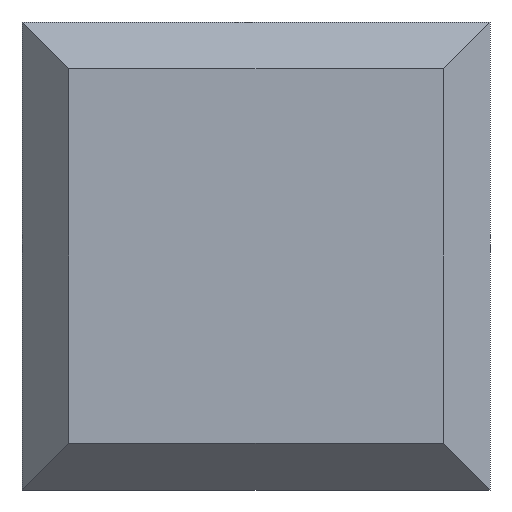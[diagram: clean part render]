
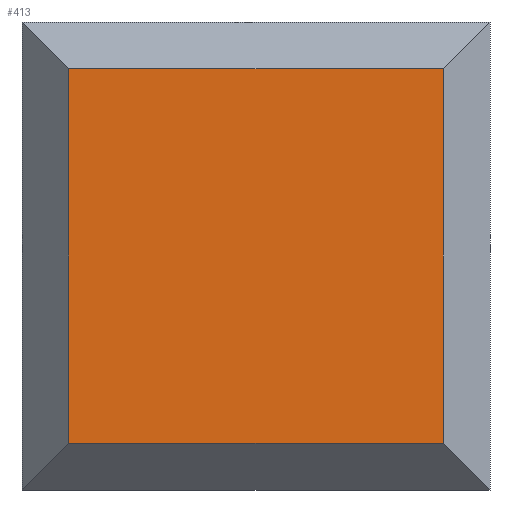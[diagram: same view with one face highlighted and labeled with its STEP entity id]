
A CAD part, front view. The second image highlights one B-rep face of the part: STEP entity #413.
In plain terms, the highlighted planar face has unit normal (0, -1, 0).
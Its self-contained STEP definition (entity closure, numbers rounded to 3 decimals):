
#7 = ORIENTED_EDGE ( 'NONE', *, *, #665, .F. ) ;
#75 = DIRECTION ( 'NONE',  ( 0., 0., 1. ) ) ;
#84 = CARTESIAN_POINT ( 'NONE',  ( 4., -4., 4. ) ) ;
#93 = CARTESIAN_POINT ( 'NONE',  ( -4., -4., -4. ) ) ;
#106 = ORIENTED_EDGE ( 'NONE', *, *, #857, .F. ) ;
#115 = DIRECTION ( 'NONE',  ( -1., 0., 0. ) ) ;
#122 = VERTEX_POINT ( 'NONE', #802 ) ;
#124 = DIRECTION ( 'NONE',  ( 0., -1., 0. ) ) ;
#126 = VECTOR ( 'NONE', #75, 1000. ) ;
#135 = PLANE ( 'NONE',  #921 ) ;
#166 = CARTESIAN_POINT ( 'NONE',  ( 4., -4., 4. ) ) ;
#178 = DIRECTION ( 'NONE',  ( 0., 0., 1. ) ) ;
#182 = VECTOR ( 'NONE', #690, 1000. ) ;
#190 = LINE ( 'NONE', #262, #942 ) ;
#205 = CARTESIAN_POINT ( 'NONE',  ( -4., -4., 4. ) ) ;
#262 = CARTESIAN_POINT ( 'NONE',  ( -4., -4., 5. ) ) ;
#331 = ORIENTED_EDGE ( 'NONE', *, *, #595, .T. ) ;
#335 = LINE ( 'NONE', #84, #126 ) ;
#376 = CARTESIAN_POINT ( 'NONE',  ( 5., -4., 4. ) ) ;
#399 = LINE ( 'NONE', #376, #182 ) ;
#405 = EDGE_CURVE ( 'NONE', #592, #876, #190, .T. ) ;
#413 = ADVANCED_FACE ( 'NONE', ( #779 ), #135, .T. ) ;
#465 = CARTESIAN_POINT ( 'NONE',  ( 5., -4., -4. ) ) ;
#592 = VERTEX_POINT ( 'NONE', #93 ) ;
#595 = EDGE_CURVE ( 'NONE', #122, #841, #335, .T. ) ;
#600 = ORIENTED_EDGE ( 'NONE', *, *, #405, .F. ) ;
#665 = EDGE_CURVE ( 'NONE', #122, #592, #890, .T. ) ;
#690 = DIRECTION ( 'NONE',  ( 1., 0., 0. ) ) ;
#700 = VECTOR ( 'NONE', #946, 1000. ) ;
#779 = FACE_OUTER_BOUND ( 'NONE', #943, .T. ) ;
#802 = CARTESIAN_POINT ( 'NONE',  ( 4., -4., -4. ) ) ;
#841 = VERTEX_POINT ( 'NONE', #879 ) ;
#857 = EDGE_CURVE ( 'NONE', #876, #841, #399, .T. ) ;
#876 = VERTEX_POINT ( 'NONE', #205 ) ;
#879 = CARTESIAN_POINT ( 'NONE',  ( 4., -4., 4. ) ) ;
#890 = LINE ( 'NONE', #465, #700 ) ;
#921 = AXIS2_PLACEMENT_3D ( 'NONE', #166, #124, #115 ) ;
#942 = VECTOR ( 'NONE', #178, 1000. ) ;
#943 = EDGE_LOOP ( 'NONE', ( #106, #600, #7, #331 ) ) ;
#946 = DIRECTION ( 'NONE',  ( -1., 0., 0. ) ) ;
